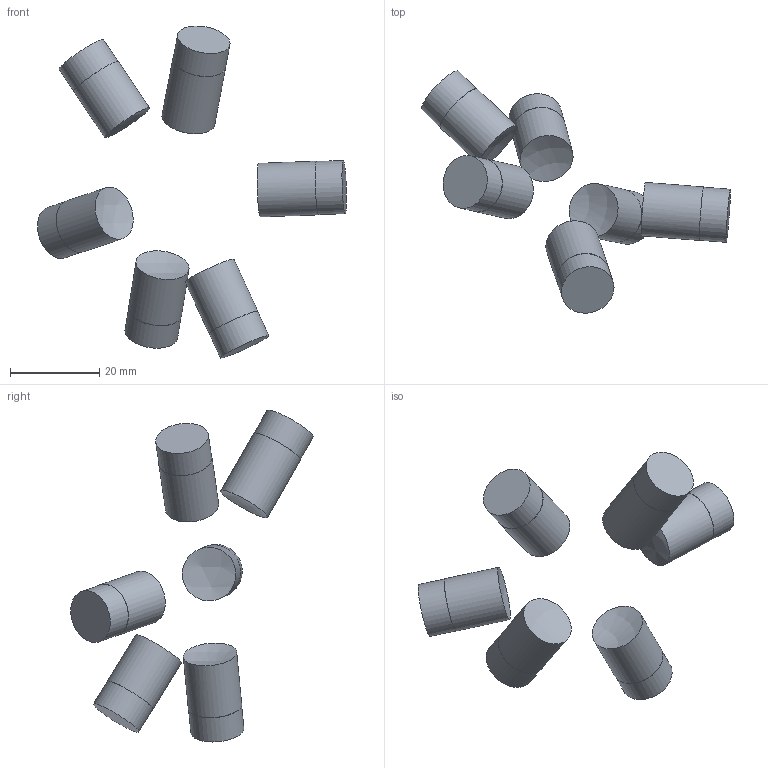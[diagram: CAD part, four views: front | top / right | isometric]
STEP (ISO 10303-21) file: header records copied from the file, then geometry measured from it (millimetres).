
FILE_DESCRIPTION(('Open CASCADE Model'),'2;1');
FILE_NAME('Open CASCADE Shape Model','2026-10-21T12:47:57',('Author'),( 'Open CASCADE'),'Open CASCADE STEP processor 7.9','Open CASCADE 7.9' ,'Unknown');
FILE_SCHEMA(('AUTOMOTIVE_DESIGN { 1 0 10303 214 1 1 1 1 }'));
Length unit declared in the file: millimetre
Products named in the file (1): Open CASCADE STEP translator 7.9 150
Bounding box: 69.07 x 54.2 x 74.21 mm (x, y, z)
Volume: 12499.2 mm3; surface area: 5655.8 mm2
Topology: 5 solids, 5 shells, 29 faces, 41 edges, 28 vertices
Faces by surface type: cylinder 12, plane 12, sphere 5
Full cylindrical faces by diameter (mm): 11.9 x6, 12 x6
Entity records: 1642 total; most frequent: CARTESIAN_POINT 658, DIRECTION 202, ORIENTED_EDGE 86, PCURVE 86, DEFINITIONAL_REPRESENTATION 86, LINE 70, VECTOR 70, AXIS2_PLACEMENT_3D 57
